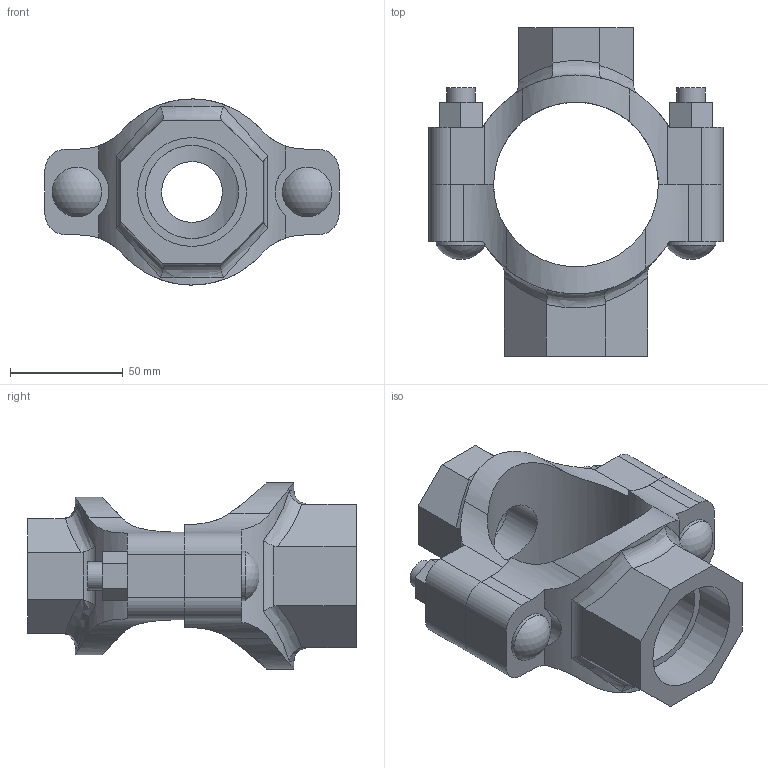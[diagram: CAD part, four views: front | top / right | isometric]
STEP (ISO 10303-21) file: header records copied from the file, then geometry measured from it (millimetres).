
FILE_DESCRIPTION(/* description */ ('VIC MECH-T BRANCH OUTLET CROSS STYLE 920N (THD)','CAx-IF Rec.Pracs.---Representation and Presentation of Product Manufacturing Information (PMI)---4.0---2014-10-13'),/* implementation_level */ '2;1');
FILE_NAME(/* name */ 'C:\Users\Vjadhav\AppData\Roaming\Autodesk\ApplicationPlugins\Back Up\Victaulic_IPS_Mechanical-Cross Outlet_Style 920N (FPT)\Victaulic_IPS_Mechanical-Cross Outlet_02.5x01.0x01.5 (65x25x40).stp',/* time_stamp */ '2020-08-06T18:56:45+05:00',/* author */ ('Vjadhav'),/* organization */ ('Victaulic'),/* preprocessor_version */ 'ST-DEVELOPER v17.2',/* originating_system */ 'Autodesk Inventor 2019',/* authorisation */ '');
FILE_SCHEMA (('AP242_MANAGED_MODEL_BASED_3D_ENGINEERING_MIM_LF { 1 0 10303 442 1 1 4 }'));
Length unit declared in the file: inch
Products named in the file (3): 920NT-02.5x01.0x01.5; 920NT-02.5x01.0; 920NT-02.5x01.5
Assembly tree (2 placements, depth 2):
  920NT-02.5x01.0x01.5
    920NT-02.5x01.0
    920NT-02.5x01.5
Bounding box: 130.56 x 145.8 x 82.55 mm (x, y, z)
Volume: 308373.8 mm3; surface area: 74840.6 mm2
Topology: 2 solids, 2 shells, 132 faces, 350 edges, 236 vertices
Faces by surface type: plane 68, cylinder 50, bspline 8, torus 4, sphere 2
Full cylindrical faces by diameter (mm): 12.7 x4, 21.982 x2, 26.987 x1, 33.401 x1, 41.275 x1, 48.26 x1
Entity records: 5110 total; most frequent: CARTESIAN_POINT 1597, ORIENTED_EDGE 700, DIRECTION 648, EDGE_CURVE 350, VERTEX_POINT 236, AXIS2_PLACEMENT_3D 231, LINE 186, VECTOR 186
